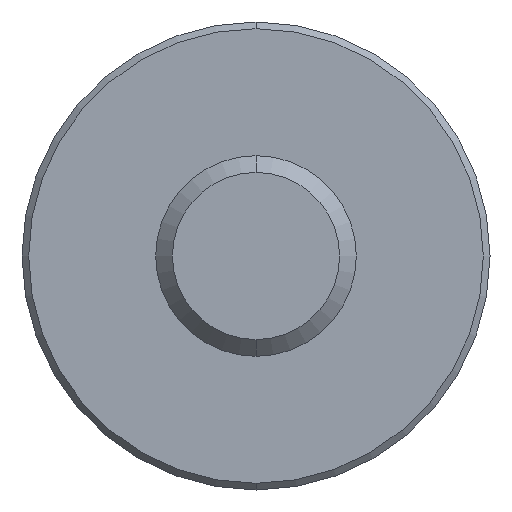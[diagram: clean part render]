
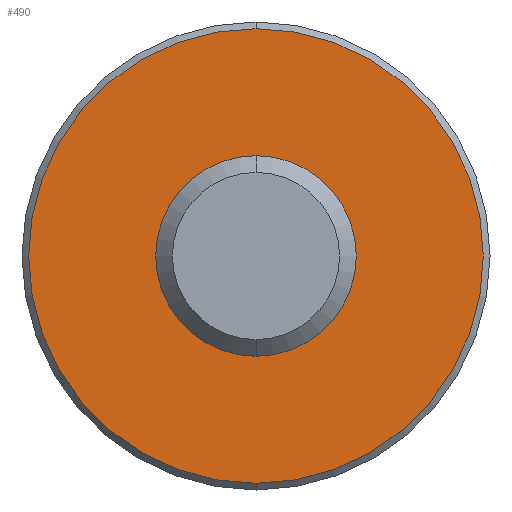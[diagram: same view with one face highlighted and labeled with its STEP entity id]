
A CAD part, front view. The second image highlights one B-rep face of the part: STEP entity #490.
In plain terms, the highlighted planar face has unit normal (0, -1, 0).
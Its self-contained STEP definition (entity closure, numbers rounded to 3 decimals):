
#9 = CARTESIAN_POINT ( 'NONE',  ( 0., -1., 0. ) ) ;
#53 = EDGE_CURVE ( 'NONE', #278, #143, #519, .T. ) ;
#82 = VERTEX_POINT ( 'NONE', #389 ) ;
#89 = ORIENTED_EDGE ( 'NONE', *, *, #53, .T. ) ;
#90 = CARTESIAN_POINT ( 'NONE',  ( 0., -1., 0. ) ) ;
#101 = FACE_BOUND ( 'NONE', #388, .T. ) ;
#114 = AXIS2_PLACEMENT_3D ( 'NONE', #289, #336, #504 ) ;
#131 = AXIS2_PLACEMENT_3D ( 'NONE', #90, #171, #307 ) ;
#142 = AXIS2_PLACEMENT_3D ( 'NONE', #9, #295, #425 ) ;
#143 = VERTEX_POINT ( 'NONE', #300 ) ;
#150 = CARTESIAN_POINT ( 'NONE',  ( 0., -1., 0. ) ) ;
#151 = EDGE_CURVE ( 'NONE', #533, #82, #525, .T. ) ;
#152 = CARTESIAN_POINT ( 'NONE',  ( 0., -1., -6.8 ) ) ;
#168 = CARTESIAN_POINT ( 'NONE',  ( 0., -1., -3. ) ) ;
#171 = DIRECTION ( 'NONE',  ( 0., -1., 0. ) ) ;
#200 = DIRECTION ( 'NONE',  ( 0., 0., 1. ) ) ;
#205 = DIRECTION ( 'NONE',  ( 0., 1., 0. ) ) ;
#230 = DIRECTION ( 'NONE',  ( 0., -1., 0. ) ) ;
#238 = ORIENTED_EDGE ( 'NONE', *, *, #534, .T. ) ;
#248 = EDGE_LOOP ( 'NONE', ( #238, #89 ) ) ;
#274 = EDGE_CURVE ( 'NONE', #82, #533, #275, .T. ) ;
#275 = CIRCLE ( 'NONE', #383, 3. ) ;
#278 = VERTEX_POINT ( 'NONE', #152 ) ;
#288 = ORIENTED_EDGE ( 'NONE', *, *, #151, .T. ) ;
#289 = CARTESIAN_POINT ( 'NONE',  ( 0., -1., 0. ) ) ;
#295 = DIRECTION ( 'NONE',  ( 0., 1., 0. ) ) ;
#300 = CARTESIAN_POINT ( 'NONE',  ( 0., -1., 6.8 ) ) ;
#307 = DIRECTION ( 'NONE',  ( 0., 0., 1. ) ) ;
#336 = DIRECTION ( 'NONE',  ( 0., 1., 0. ) ) ;
#383 = AXIS2_PLACEMENT_3D ( 'NONE', #150, #205, #200 ) ;
#388 = EDGE_LOOP ( 'NONE', ( #288, #413 ) ) ;
#389 = CARTESIAN_POINT ( 'NONE',  ( 0., -1., 3. ) ) ;
#413 = ORIENTED_EDGE ( 'NONE', *, *, #274, .T. ) ;
#420 = PLANE ( 'NONE',  #114 ) ;
#425 = DIRECTION ( 'NONE',  ( 0., 0., 1. ) ) ;
#481 = AXIS2_PLACEMENT_3D ( 'NONE', #520, #230, #521 ) ;
#490 = ADVANCED_FACE ( 'NONE', ( #518, #101 ), #420, .F. ) ;
#496 = CIRCLE ( 'NONE', #131, 6.8 ) ;
#504 = DIRECTION ( 'NONE',  ( 0., 0., 1. ) ) ;
#518 = FACE_OUTER_BOUND ( 'NONE', #248, .T. ) ;
#519 = CIRCLE ( 'NONE', #481, 6.8 ) ;
#520 = CARTESIAN_POINT ( 'NONE',  ( 0., -1., 0. ) ) ;
#521 = DIRECTION ( 'NONE',  ( 0., 0., 1. ) ) ;
#525 = CIRCLE ( 'NONE', #142, 3. ) ;
#533 = VERTEX_POINT ( 'NONE', #168 ) ;
#534 = EDGE_CURVE ( 'NONE', #143, #278, #496, .T. ) ;
